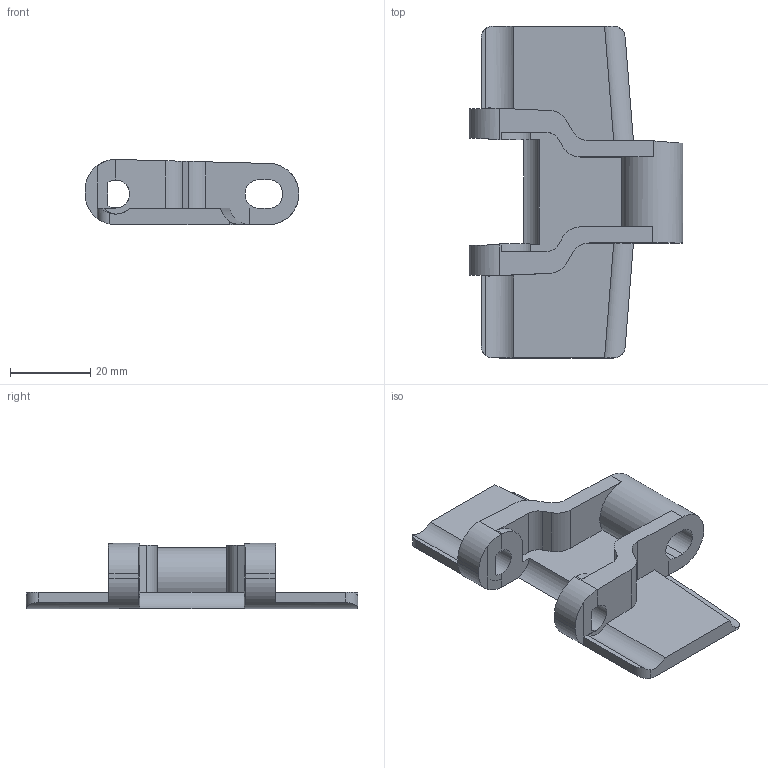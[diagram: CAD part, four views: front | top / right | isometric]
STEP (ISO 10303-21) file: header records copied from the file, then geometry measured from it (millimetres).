
FILE_DESCRIPTION(/* description */ ('ツバキ'),/* implementation_level */ '2;1');
FILE_NAME(/* name */ 'C:\Users\Fujimoto-s\OneDrive\Inventor\WorkSpace\\X2\305D306E4ED6\X0\\ホームページ用\\X2\30C030A630F330ED30FC30C97D206750\X0\\コンベヤ部品\TTUP826\TTUP826.stp',/* time_stamp */ '2024-08-08T16:24:38+09:00',/* author */ ('Fujimoto-s'),/* organization */ (''),/* preprocessor_version */ 'ST-DEVELOPER v15.2',/* originating_system */ 'Autodesk Inventor 2014',/* authorisation */ '');
FILE_SCHEMA (('AUTOMOTIVE_DESIGN { 1 0 10303 214 3 1 1 }'));
Length unit declared in the file: millimetre
Products named in the file (1): TTUP826
Bounding box: 53.2 x 82.6 x 16.2 mm (x, y, z)
Volume: 17706.6 mm3; surface area: 10718.2 mm2
Topology: 1 solids, 1 shells, 85 faces, 254 edges, 164 vertices
Faces by surface type: plane 55, cylinder 28, bspline 2
Entity records: 2950 total; most frequent: CARTESIAN_POINT 568, ORIENTED_EDGE 512, DIRECTION 498, EDGE_CURVE 254, LINE 166, VECTOR 166, AXIS2_PLACEMENT_3D 166, VERTEX_POINT 164
